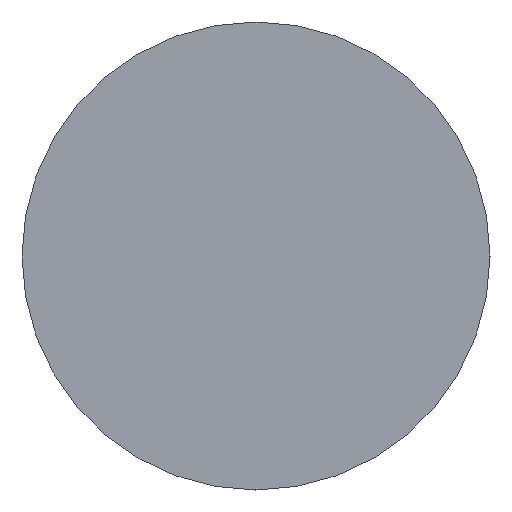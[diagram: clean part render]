
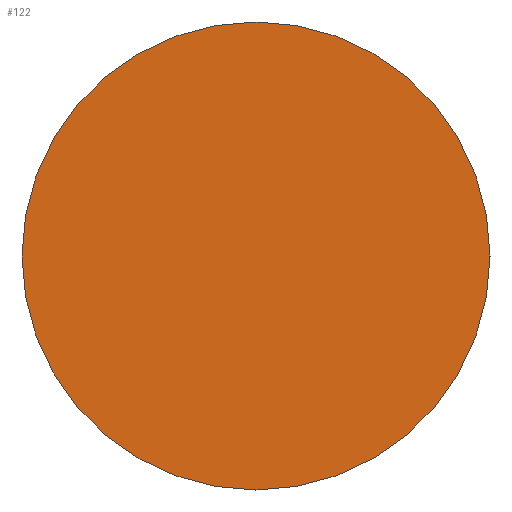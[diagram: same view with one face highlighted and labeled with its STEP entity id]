
A CAD part, left-side view. The second image highlights one B-rep face of the part: STEP entity #122.
In plain terms, the highlighted planar face has unit normal (-1, 0, 0).
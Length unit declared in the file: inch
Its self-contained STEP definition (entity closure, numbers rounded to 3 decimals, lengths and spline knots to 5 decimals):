
#19 = AXIS2_PLACEMENT_3D ( 'NONE', #91, #564, #604 ) ;
#37 = PLANE ( 'NONE',  #99 ) ;
#39 = VERTEX_POINT ( 'NONE', #179 ) ;
#48 = EDGE_CURVE ( 'NONE', #570, #39, #188, .T. ) ;
#51 = CARTESIAN_POINT ( 'NONE',  ( -6., 0., 0. ) ) ;
#59 = CARTESIAN_POINT ( 'NONE',  ( -6., 0., -0.3125 ) ) ;
#64 = DIRECTION ( 'NONE',  ( 0., 0., 1. ) ) ;
#91 = CARTESIAN_POINT ( 'NONE',  ( -6., 0., 0. ) ) ;
#97 = EDGE_LOOP ( 'NONE', ( #169, #380 ) ) ;
#99 = AXIS2_PLACEMENT_3D ( 'NONE', #143, #238, #104 ) ;
#104 = DIRECTION ( 'NONE',  ( 0., 0., -1. ) ) ;
#122 = ADVANCED_FACE ( 'NONE', ( #464 ), #37, .F. ) ;
#138 = CIRCLE ( 'NONE', #288, 0.3125 ) ;
#143 = CARTESIAN_POINT ( 'NONE',  ( -6., 0.3125, 0. ) ) ;
#169 = ORIENTED_EDGE ( 'NONE', *, *, #573, .T. ) ;
#179 = CARTESIAN_POINT ( 'NONE',  ( -6., 0., 0.3125 ) ) ;
#188 = CIRCLE ( 'NONE', #19, 0.3125 ) ;
#238 = DIRECTION ( 'NONE',  ( 1., 0., 0. ) ) ;
#288 = AXIS2_PLACEMENT_3D ( 'NONE', #51, #494, #64 ) ;
#380 = ORIENTED_EDGE ( 'NONE', *, *, #48, .T. ) ;
#464 = FACE_OUTER_BOUND ( 'NONE', #97, .T. ) ;
#494 = DIRECTION ( 'NONE',  ( -1., 0., 0. ) ) ;
#564 = DIRECTION ( 'NONE',  ( -1., 0., 0. ) ) ;
#570 = VERTEX_POINT ( 'NONE', #59 ) ;
#573 = EDGE_CURVE ( 'NONE', #39, #570, #138, .T. ) ;
#604 = DIRECTION ( 'NONE',  ( 0., 0., 1. ) ) ;
